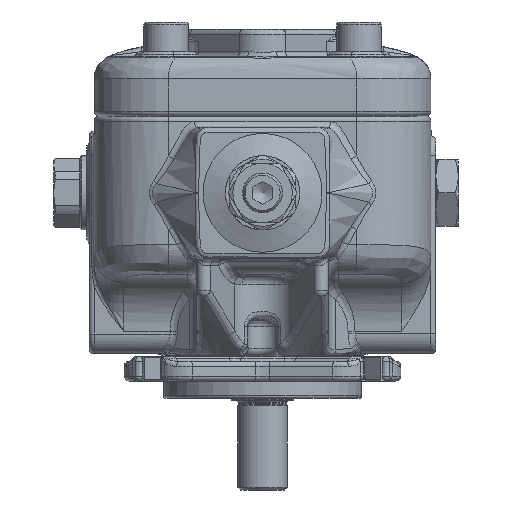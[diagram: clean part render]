
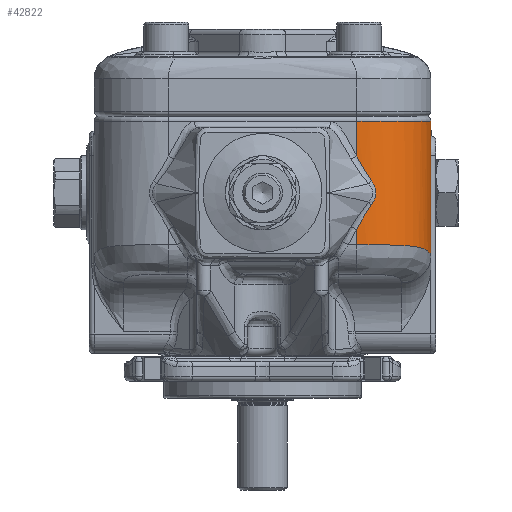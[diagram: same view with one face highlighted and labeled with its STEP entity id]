
A CAD part, front view. The second image highlights one B-rep face of the part: STEP entity #42822.
In plain terms, the highlighted cylindrical face has radius 30 mm (diameter 60 mm), a partial arc.
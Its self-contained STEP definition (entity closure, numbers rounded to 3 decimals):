
#3505=FACE_OUTER_BOUND('',#6078,.T.);
#6078=EDGE_LOOP('',(#30968,#30969,#30970,#30971,#30972,#30973,#30974,#30975));
#8564=CIRCLE('',#46023,30.);
#10435=B_SPLINE_CURVE_WITH_KNOTS('',3,(#67627,#67628,#67629,#67630,#67631,
#67632,#67633,#67634,#67635),.UNSPECIFIED.,.F.,.F.,(4,1,1,1,1,1,4),(0.,
0.414,1.242,1.655,2.069,2.483,
2.897),.UNSPECIFIED.);
#10576=B_SPLINE_CURVE_WITH_KNOTS('',3,(#71326,#71327,#71328,#71329,#71330),
 .UNSPECIFIED.,.F.,.F.,(4,1,4),(-1.207,-0.517,0.),
 .UNSPECIFIED.);
#10577=B_SPLINE_CURVE_WITH_KNOTS('',3,(#71332,#71333,#71334,#71335,#71336),
 .UNSPECIFIED.,.F.,.F.,(4,1,4),(-1.207,-0.517,0.),
 .UNSPECIFIED.);
#10578=B_SPLINE_CURVE_WITH_KNOTS('',3,(#71337,#71338,#71339,#71340,#71341,
#71342,#71343),.UNSPECIFIED.,.F.,.F.,(4,1,1,1,4),(-1.056,-0.754,
-0.604,-0.302,0.),.UNSPECIFIED.);
#12333=LINE('',#67742,#14722);
#12446=LINE('',#71305,#14835);
#12447=LINE('',#71323,#14836);
#14722=VECTOR('',#52714,10.);
#14835=VECTOR('',#53627,10.);
#14836=VECTOR('',#53630,10.);
#17376=VERTEX_POINT('',#67566);
#17377=VERTEX_POINT('',#67570);
#17382=VERTEX_POINT('',#67740);
#17611=VERTEX_POINT('',#70367);
#17667=VERTEX_POINT('',#71300);
#17668=VERTEX_POINT('',#71307);
#17669=VERTEX_POINT('',#71325);
#17670=VERTEX_POINT('',#71331);
#21906=EDGE_CURVE('',#17377,#17376,#10435,.T.);
#21912=EDGE_CURVE('',#17377,#17382,#12333,.T.);
#22313=EDGE_CURVE('',#17611,#17382,#8564,.T.);
#22424=EDGE_CURVE('',#17376,#17667,#12446,.T.);
#22426=EDGE_CURVE('',#17668,#17611,#12447,.T.);
#22427=EDGE_CURVE('',#17667,#17669,#10576,.T.);
#22428=EDGE_CURVE('',#17670,#17668,#10577,.T.);
#22429=EDGE_CURVE('',#17669,#17670,#10578,.T.);
#30968=ORIENTED_EDGE('',*,*,#22427,.F.);
#30969=ORIENTED_EDGE('',*,*,#22424,.F.);
#30970=ORIENTED_EDGE('',*,*,#21906,.F.);
#30971=ORIENTED_EDGE('',*,*,#21912,.T.);
#30972=ORIENTED_EDGE('',*,*,#22313,.F.);
#30973=ORIENTED_EDGE('',*,*,#22426,.F.);
#30974=ORIENTED_EDGE('',*,*,#22428,.F.);
#30975=ORIENTED_EDGE('',*,*,#22429,.F.);
#39004=CYLINDRICAL_SURFACE('',#46118,30.);
#42822=ADVANCED_FACE('',(#3505),#39004,.T.);
#46023=AXIS2_PLACEMENT_3D('',#70419,#53414,#53415);
#46118=AXIS2_PLACEMENT_3D('',#71324,#53631,#53632);
#52714=DIRECTION('',(0.,0.,1.));
#53414=DIRECTION('center_axis',(0.,0.,
1.));
#53415=DIRECTION('ref_axis',(0.707,-0.707,0.));
#53627=DIRECTION('',(0.,0.,1.));
#53630=DIRECTION('',(0.,0.,1.));
#53631=DIRECTION('center_axis',(0.,0.,1.));
#53632=DIRECTION('ref_axis',(0.,-1.,0.));
#67566=CARTESIAN_POINT('',(31.46,-70.004,-1.748));
#67570=CARTESIAN_POINT('',(61.46,-40.004,-6.731));
#67627=CARTESIAN_POINT('Ctrl Pts',(61.46,-40.004,-6.731));
#67628=CARTESIAN_POINT('Ctrl Pts',(61.46,-41.976,-6.021));
#67629=CARTESIAN_POINT('Ctrl Pts',(60.885,-48.157,-4.08));
#67630=CARTESIAN_POINT('Ctrl Pts',(57.237,-56.548,-2.561));
#67631=CARTESIAN_POINT('Ctrl Pts',(50.802,-63.282,-1.948));
#67632=CARTESIAN_POINT('Ctrl Pts',(44.976,-67.088,-1.774));
#67633=CARTESIAN_POINT('Ctrl Pts',(38.39,-69.469,-1.746));
#67634=CARTESIAN_POINT('Ctrl Pts',(33.781,-70.004,-1.748));
#67635=CARTESIAN_POINT('Ctrl Pts',(31.46,-70.004,-1.748));
#67740=CARTESIAN_POINT('',(61.46,-40.004,48.252));
#67742=CARTESIAN_POINT('',(61.46,-40.004,-14.748));
#70367=CARTESIAN_POINT('',(31.46,-70.004,48.252));
#70419=CARTESIAN_POINT('Origin',(31.46,-40.004,48.252));
#71300=CARTESIAN_POINT('',(31.46,-70.004,4.36));
#71305=CARTESIAN_POINT('',(31.46,-70.004,-14.748));
#71307=CARTESIAN_POINT('',(31.46,-70.004,34.144));
#71323=CARTESIAN_POINT('',(31.46,-70.004,-14.748));
#71324=CARTESIAN_POINT('Origin',(31.46,-40.004,-14.748));
#71325=CARTESIAN_POINT('',(37.424,-69.405,14.452));
#71326=CARTESIAN_POINT('Ctrl Pts',(31.46,-70.004,4.36));
#71327=CARTESIAN_POINT('Ctrl Pts',(32.482,-70.004,6.366));
#71328=CARTESIAN_POINT('Ctrl Pts',(34.34,-69.916,9.837));
#71329=CARTESIAN_POINT('Ctrl Pts',(36.449,-69.603,13.12));
#71330=CARTESIAN_POINT('Ctrl Pts',(37.424,-69.405,14.452));
#71331=CARTESIAN_POINT('',(37.424,-69.405,24.053));
#71332=CARTESIAN_POINT('Ctrl Pts',(37.424,-69.405,24.053));
#71333=CARTESIAN_POINT('Ctrl Pts',(36.123,-69.669,25.829));
#71334=CARTESIAN_POINT('Ctrl Pts',(34.069,-69.936,29.163));
#71335=CARTESIAN_POINT('Ctrl Pts',(32.226,-70.004,32.64));
#71336=CARTESIAN_POINT('Ctrl Pts',(31.46,-70.004,34.144));
#71337=CARTESIAN_POINT('Ctrl Pts',(37.424,-69.405,14.452));
#71338=CARTESIAN_POINT('Ctrl Pts',(37.994,-69.29,15.229));
#71339=CARTESIAN_POINT('Ctrl Pts',(38.735,-69.112,16.517));
#71340=CARTESIAN_POINT('Ctrl Pts',(39.335,-68.951,18.98));
#71341=CARTESIAN_POINT('Ctrl Pts',(39.001,-69.045,21.564));
#71342=CARTESIAN_POINT('Ctrl Pts',(37.994,-69.29,23.276));
#71343=CARTESIAN_POINT('Ctrl Pts',(37.424,-69.405,24.053));
